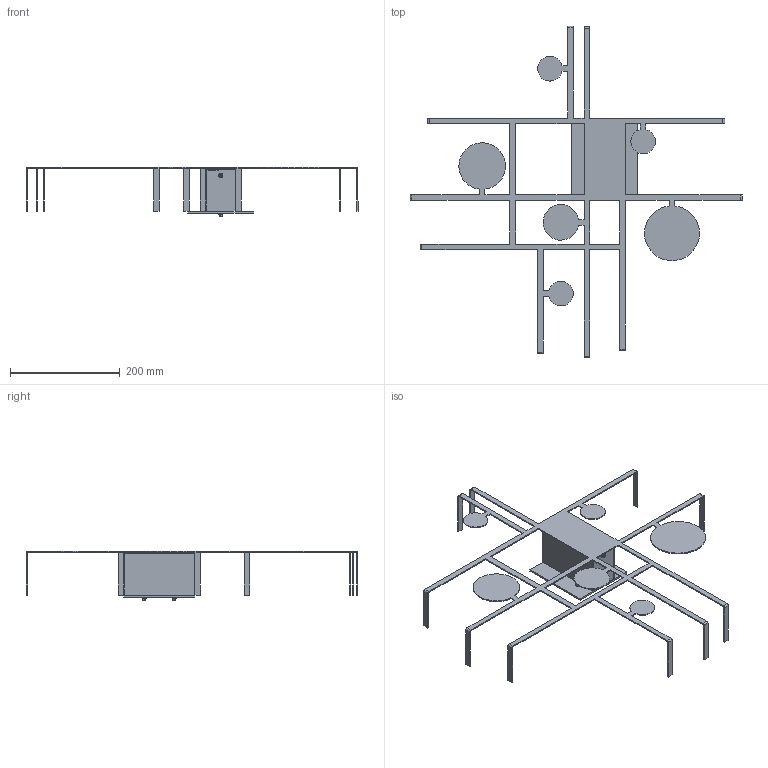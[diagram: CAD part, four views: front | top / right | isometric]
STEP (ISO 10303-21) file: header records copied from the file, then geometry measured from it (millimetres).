
FILE_DESCRIPTION (( 'STEP AP203' ), '1' );
FILE_NAME ('UAMANIFESTOX2XX-Rev 01-PER 3D.STEP', '2026-07-07T15:17:42', ( '' ), ( '' ), 'SwSTEP 2.0', 'SolidWorks 2026', '' );
FILE_SCHEMA (( 'CONFIG_CONTROL_DESIGN' ));
Length unit declared in the file: millimetre
Products named in the file (9): WSCM2C0122-0100-00; WSMCDAA-04A32-0141_MC-D002-XX-FE-00; WSMCVIF-04A10-0141_MC-V002-BE-FE-10; WSCM2C0117-0100-00; WSCM2C0119-0100-02; UAMANIFESTOX2XX-Rev 01-PER 3D; WSCM2C0118-0100-02_Default<A macchina>; Prigioniero Autoagganciante  PFH - PSM_PRIGIONIERO PFH M3X10; serrated lock washer 1_din_MC-R002-EX-FE-00
Assembly tree (11 placements, depth 3):
  UAMANIFESTOX2XX-Rev 01-PER 3D
    WSMCVIF-04A10-0141_MC-V002-BE-FE-10  x2
    WSCM2C0119-0100-02
      Prigioniero Autoagganciante  PFH - PSM_PRIGIONIERO PFH M3X10  x2
    WSCM2C0117-0100-00
    WSCM2C0118-0100-02_Default<A macchina>
    WSMCDAA-04A32-0141_MC-D002-XX-FE-00
    WSCM2C0122-0100-00
    serrated lock washer 1_din_MC-R002-EX-FE-00  x2
Bounding box: 605.25 x 604.58 x 90.5 mm (x, y, z)
Volume: 232607.7 mm3; surface area: 256744.3 mm2
Topology: 16 solids, 16 shells, 545 faces, 1347 edges, 798 vertices
Faces by surface type: plane 290, cylinder 131, bspline 52, cone 36, torus 32, sphere 4
Entity records: 14862 total; most frequent: CARTESIAN_POINT 3256, DIRECTION 2219, ORIENTED_EDGE 2162, EDGE_CURVE 1081, AXIS2_PLACEMENT_3D 790, VERTEX_POINT 657, VECTOR 639, LINE 639
